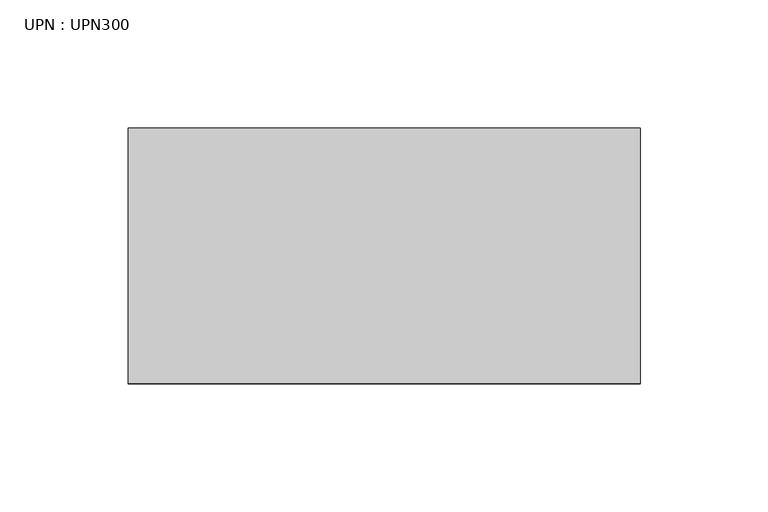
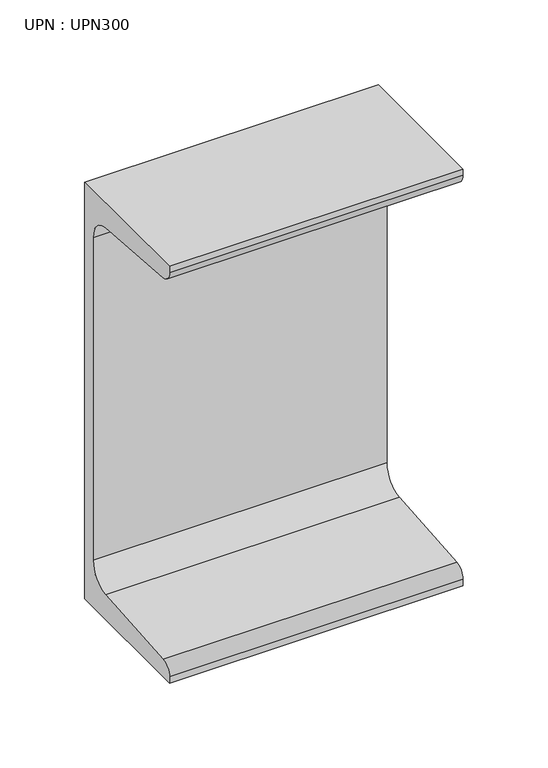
"""IFC4 building model written with IfcOpenShell, lengths in millimetres: beam geometry, UPN : UPN300."""

from ifc_helpers import new_model, si_unit, point, frame, frame_2d, origin, place, context, project, spatial, polyline, circle_curve, trimmed, segment, composite_curve, outline, extrude, source, transform, mapped, element, save


def upn_upn300_6b2b9716(model_context):
    return source(origin(), model_context, "Body", "SweptSolid", [
        extrude(outline(composite_curve([segment(polyline([(27.0, 150.0), (27.0, -150.0), (-73.0, -150.0), (-73.0, -145.3826224)]), True, "CONTINUOUS"), segment(trimmed(circle_curve(frame_2d((-65.0, -145.3826224)), 8.0), [point((-73.0, -145.3826224))], [point((-65.637416, -137.4080566))], False, "CARTESIAN"), True, "CONTINUOUS"), segment(polyline([(-65.637416, -137.4080566), (2.274832, -131.9797543)]), True, "CONTINUOUS"), segment(trimmed(circle_curve(frame_2d((1.0, -116.0306225)), 16.0), [point((2.274832, -131.9797543))], [point((17.0, -116.0306225))], True, "CARTESIAN"), True, "CONTINUOUS"), segment(polyline([(17.0, -116.0306225), (17.0, 116.0306225)]), True, "CONTINUOUS"), segment(trimmed(circle_curve(frame_2d((1.0, 116.0306225)), 16.0), [point((17.0, 116.0306225))], [point((2.274832, 131.9797543))], True, "CARTESIAN"), True, "CONTINUOUS"), segment(polyline([(2.274832, 131.9797543), (-65.637416, 137.4080566)]), True, "CONTINUOUS"), segment(trimmed(circle_curve(frame_2d((-65.0, 145.3826224)), 8.0), [point((-65.637416, 137.4080566))], [point((-73.0, 145.3826224))], False, "CARTESIAN"), True, "CONTINUOUS"), segment(polyline([(-73.0, 145.3826224), (-73.0, 150.0), (27.0, 150.0)]), True, "CONTINUOUS")], self_intersect=False)), frame((-100.0, 0.0, 0.0), z_axis=(1.0, 0.0, 0.0), x_axis=(0.0, 1.0, 0.0)), (0.0, 0.0, 1.0), 200.0),
    ])


if __name__ == "__main__":
    model = new_model("IFC4")
    model_context = context("Model", 3, world=origin())
    ifc_project = project(units=[si_unit("LENGTHUNIT", "METRE", prefix="MILLI")], contexts=[model_context])
    site = spatial("IfcSite", under=ifc_project)
    building = spatial("IfcBuilding", under=site)
    placement = place(None, origin())
    upn_upn300_shape = upn_upn300_6b2b9716(model_context)
    element("IfcBeam", 1, ObjectType="UPN : UPN300", at=placement, inside=building, context=model_context, shape_type="MappedRepresentation", body=[
        mapped(upn_upn300_shape, transform((0.0, 0.0, 0.0), x_axis=(1.0, 0.0, 0.0), y_axis=(0.0, 1.0, 0.0), z_axis=(0.0, 0.0, 1.0))),
    ])
    save(model, "model.ifc")
